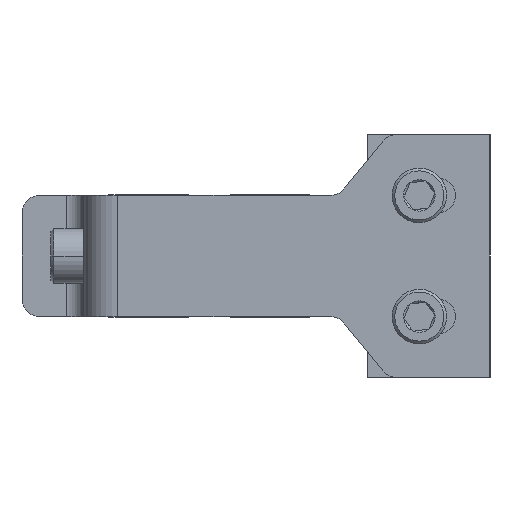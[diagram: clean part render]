
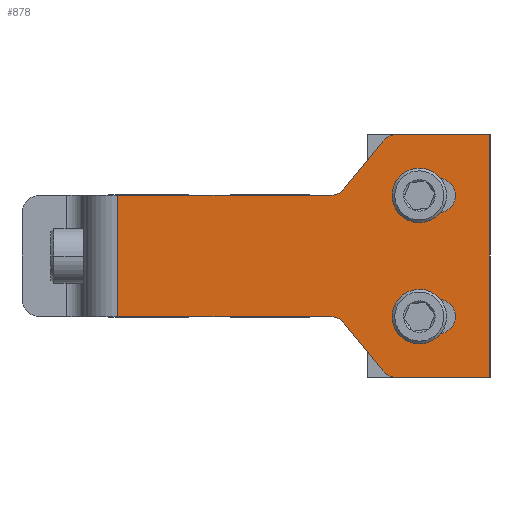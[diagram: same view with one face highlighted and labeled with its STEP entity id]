
A CAD part, left-side view. The second image highlights one B-rep face of the part: STEP entity #878.
In plain terms, the highlighted planar face has unit normal (-1, 0, 0).
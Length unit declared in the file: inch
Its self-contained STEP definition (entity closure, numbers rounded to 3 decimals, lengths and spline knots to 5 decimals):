
#173=DIRECTION('',(0.,-0.632,-0.775));
#174=VECTOR('',#173,0.446);
#175=CARTESIAN_POINT('',(0.,1.05449,-0.48347));
#176=LINE('',#175,#174);
#177=CARTESIAN_POINT('',(0.,1.15134,-0.5625));
#178=DIRECTION('',(1.,0.,0.));
#179=DIRECTION('',(0.,0.,1.));
#180=AXIS2_PLACEMENT_3D('',#177,#178,#179);
#182=DIRECTION('',(0.,-1.,0.));
#183=VECTOR('',#182,1.53666);
#184=CARTESIAN_POINT('',(0.,2.688,-0.4375));
#185=LINE('',#184,#183);
#186=DIRECTION('',(0.,1.,0.));
#187=VECTOR('',#186,1.53666);
#188=CARTESIAN_POINT('',(0.,1.15134,0.4375));
#189=LINE('',#188,#187);
#190=CARTESIAN_POINT('',(0.,1.15134,0.5625));
#191=DIRECTION('',(1.,0.,0.));
#192=DIRECTION('',(0.,-0.775,-0.632));
#193=AXIS2_PLACEMENT_3D('',#190,#191,#192);
#195=DIRECTION('',(0.,0.632,-0.775));
#196=VECTOR('',#195,0.446);
#197=CARTESIAN_POINT('',(0.,0.77251,0.82903));
#198=LINE('',#197,#196);
#199=CARTESIAN_POINT('',(0.,0.67566,0.75));
#200=DIRECTION('',(-1.,0.,0.));
#201=DIRECTION('',(0.,0.,1.));
#202=AXIS2_PLACEMENT_3D('',#199,#200,#201);
#204=DIRECTION('',(0.,0.,1.));
#205=VECTOR('',#204,1.75);
#206=CARTESIAN_POINT('',(0.,0.,-0.875));
#207=LINE('',#206,#205);
#208=DIRECTION('',(0.,-1.,0.));
#209=VECTOR('',#208,0.67566);
#210=CARTESIAN_POINT('',(0.,0.67566,-0.875));
#211=LINE('',#210,#209);
#212=CARTESIAN_POINT('',(0.,0.67566,-0.75));
#213=DIRECTION('',(-1.,0.,0.));
#214=DIRECTION('',(0.,0.775,-0.632));
#215=AXIS2_PLACEMENT_3D('',#212,#213,#214);
#217=CARTESIAN_POINT('',(0.,0.51,0.4375));
#218=DIRECTION('',(1.,0.,0.));
#219=DIRECTION('',(0.,0.,-1.));
#220=AXIS2_PLACEMENT_3D('',#217,#218,#219);
#222=DIRECTION('',(0.,1.,0.));
#223=VECTOR('',#222,0.135);
#224=CARTESIAN_POINT('',(0.,0.375,0.3125));
#225=LINE('',#224,#223);
#226=CARTESIAN_POINT('',(0.,0.375,0.4375));
#227=DIRECTION('',(1.,0.,0.));
#228=DIRECTION('',(0.,0.,1.));
#229=AXIS2_PLACEMENT_3D('',#226,#227,#228);
#231=DIRECTION('',(0.,-1.,0.));
#232=VECTOR('',#231,0.135);
#233=CARTESIAN_POINT('',(0.,0.51,0.5625));
#234=LINE('',#233,#232);
#235=CARTESIAN_POINT('',(0.,0.51,-0.4375));
#236=DIRECTION('',(1.,0.,0.));
#237=DIRECTION('',(0.,0.,-1.));
#238=AXIS2_PLACEMENT_3D('',#235,#236,#237);
#240=DIRECTION('',(0.,1.,0.));
#241=VECTOR('',#240,0.135);
#242=CARTESIAN_POINT('',(0.,0.375,-0.5625));
#243=LINE('',#242,#241);
#244=CARTESIAN_POINT('',(0.,0.375,-0.4375));
#245=DIRECTION('',(1.,0.,0.));
#246=DIRECTION('',(0.,0.,1.));
#247=AXIS2_PLACEMENT_3D('',#244,#245,#246);
#249=DIRECTION('',(0.,-1.,0.));
#250=VECTOR('',#249,0.135);
#251=CARTESIAN_POINT('',(0.,0.51,-0.3125));
#252=LINE('',#251,#250);
#329=DIRECTION('',(0.,-1.,0.));
#330=VECTOR('',#329,0.67566);
#331=CARTESIAN_POINT('',(0.,0.67566,0.875));
#332=LINE('',#331,#330);
#417=DIRECTION('',(0.,0.,1.));
#418=VECTOR('',#417,0.875);
#419=CARTESIAN_POINT('',(0.,2.688,-0.4375));
#420=LINE('',#419,#418);
#449=CARTESIAN_POINT('',(0.,0.77251,-0.82903));
#451=VERTEX_POINT('',#449);
#453=CARTESIAN_POINT('',(0.,0.,-0.875));
#455=VERTEX_POINT('',#453);
#458=CARTESIAN_POINT('',(0.,0.67566,-0.875));
#460=VERTEX_POINT('',#458);
#461=CARTESIAN_POINT('',(0.,0.375,0.5625));
#463=VERTEX_POINT('',#461);
#465=CARTESIAN_POINT('',(0.,0.67566,0.875));
#466=CARTESIAN_POINT('',(0.,0.77251,0.82903));
#467=VERTEX_POINT('',#465);
#468=VERTEX_POINT('',#466);
#493=CARTESIAN_POINT('',(0.,0.375,-0.3125));
#494=CARTESIAN_POINT('',(0.,0.375,-0.5625));
#495=VERTEX_POINT('',#493);
#496=VERTEX_POINT('',#494);
#503=CARTESIAN_POINT('',(0.,2.688,-0.4375));
#505=VERTEX_POINT('',#503);
#507=CARTESIAN_POINT('',(0.,0.51,0.5625));
#508=VERTEX_POINT('',#507);
#535=CARTESIAN_POINT('',(0.,1.15134,-0.4375));
#536=VERTEX_POINT('',#535);
#539=CARTESIAN_POINT('',(0.,1.05449,0.48347));
#540=VERTEX_POINT('',#539);
#550=CARTESIAN_POINT('',(0.,1.05449,-0.48347));
#552=VERTEX_POINT('',#550);
#553=CARTESIAN_POINT('',(0.,0.51,0.3125));
#554=VERTEX_POINT('',#553);
#555=CARTESIAN_POINT('',(0.,0.375,0.3125));
#556=VERTEX_POINT('',#555);
#557=CARTESIAN_POINT('',(0.,0.51,-0.5625));
#558=VERTEX_POINT('',#557);
#563=CARTESIAN_POINT('',(0.,2.688,0.4375));
#564=VERTEX_POINT('',#563);
#565=CARTESIAN_POINT('',(0.,0.,0.875));
#566=VERTEX_POINT('',#565);
#569=CARTESIAN_POINT('',(0.,1.15134,0.4375));
#570=VERTEX_POINT('',#569);
#571=CARTESIAN_POINT('',(0.,0.51,-0.3125));
#572=VERTEX_POINT('',#571);
#828=CARTESIAN_POINT('',(0.,0.,0.875));
#829=DIRECTION('',(-1.,0.,0.));
#830=DIRECTION('',(0.,0.,1.));
#831=AXIS2_PLACEMENT_3D('',#828,#829,#830);
#832=PLANE('',#831);
#834=ORIENTED_EDGE('',*,*,#833,.F.);
#836=ORIENTED_EDGE('',*,*,#835,.F.);
#838=ORIENTED_EDGE('',*,*,#837,.F.);
#840=ORIENTED_EDGE('',*,*,#839,.T.);
#841=ORIENTED_EDGE('',*,*,#818,.F.);
#843=ORIENTED_EDGE('',*,*,#842,.F.);
#845=ORIENTED_EDGE('',*,*,#844,.F.);
#847=ORIENTED_EDGE('',*,*,#846,.F.);
#849=ORIENTED_EDGE('',*,*,#848,.T.);
#851=ORIENTED_EDGE('',*,*,#850,.F.);
#853=ORIENTED_EDGE('',*,*,#852,.F.);
#855=ORIENTED_EDGE('',*,*,#854,.F.);
#856=EDGE_LOOP('',(#834,#836,#838,#840,#841,#843,#845,#847,#849,#851,#853,
#855));
#857=FACE_OUTER_BOUND('',#856,.F.);
#859=ORIENTED_EDGE('',*,*,#858,.F.);
#861=ORIENTED_EDGE('',*,*,#860,.F.);
#863=ORIENTED_EDGE('',*,*,#862,.F.);
#865=ORIENTED_EDGE('',*,*,#864,.F.);
#866=EDGE_LOOP('',(#859,#861,#863,#865));
#867=FACE_BOUND('',#866,.F.);
#869=ORIENTED_EDGE('',*,*,#868,.F.);
#871=ORIENTED_EDGE('',*,*,#870,.F.);
#873=ORIENTED_EDGE('',*,*,#872,.F.);
#875=ORIENTED_EDGE('',*,*,#874,.F.);
#876=EDGE_LOOP('',(#869,#871,#873,#875));
#877=FACE_BOUND('',#876,.F.);
#181=CIRCLE('',#180,0.125);
#194=CIRCLE('',#193,0.125);
#203=CIRCLE('',#202,0.125);
#216=CIRCLE('',#215,0.125);
#221=CIRCLE('',#220,0.125);
#230=CIRCLE('',#229,0.125);
#239=CIRCLE('',#238,0.125);
#248=CIRCLE('',#247,0.125);
#818=EDGE_CURVE('',#570,#564,#189,.T.);
#833=EDGE_CURVE('',#552,#451,#176,.T.);
#835=EDGE_CURVE('',#536,#552,#181,.T.);
#837=EDGE_CURVE('',#505,#536,#185,.T.);
#839=EDGE_CURVE('',#505,#564,#420,.T.);
#842=EDGE_CURVE('',#540,#570,#194,.T.);
#844=EDGE_CURVE('',#468,#540,#198,.T.);
#846=EDGE_CURVE('',#467,#468,#203,.T.);
#848=EDGE_CURVE('',#467,#566,#332,.T.);
#850=EDGE_CURVE('',#455,#566,#207,.T.);
#852=EDGE_CURVE('',#460,#455,#211,.T.);
#854=EDGE_CURVE('',#451,#460,#216,.T.);
#858=EDGE_CURVE('',#554,#508,#221,.T.);
#860=EDGE_CURVE('',#556,#554,#225,.T.);
#862=EDGE_CURVE('',#463,#556,#230,.T.);
#864=EDGE_CURVE('',#508,#463,#234,.T.);
#868=EDGE_CURVE('',#558,#572,#239,.T.);
#870=EDGE_CURVE('',#496,#558,#243,.T.);
#872=EDGE_CURVE('',#495,#496,#248,.T.);
#874=EDGE_CURVE('',#572,#495,#252,.T.);
#878=ADVANCED_FACE('',(#857,#867,#877),#832,.T.);
